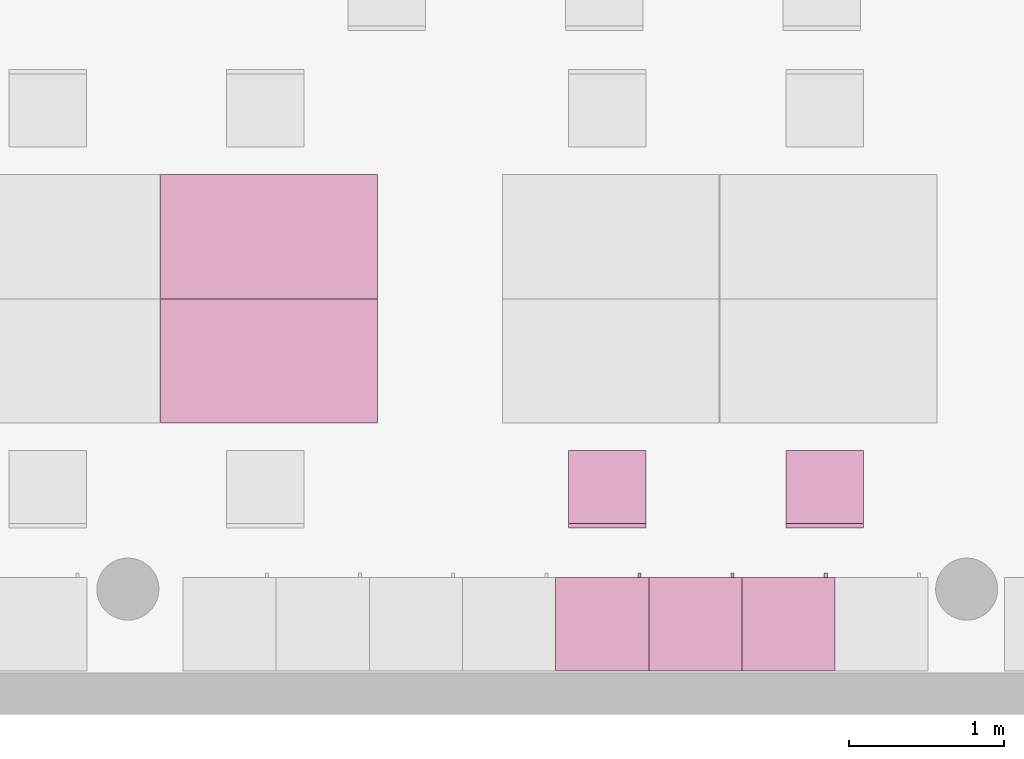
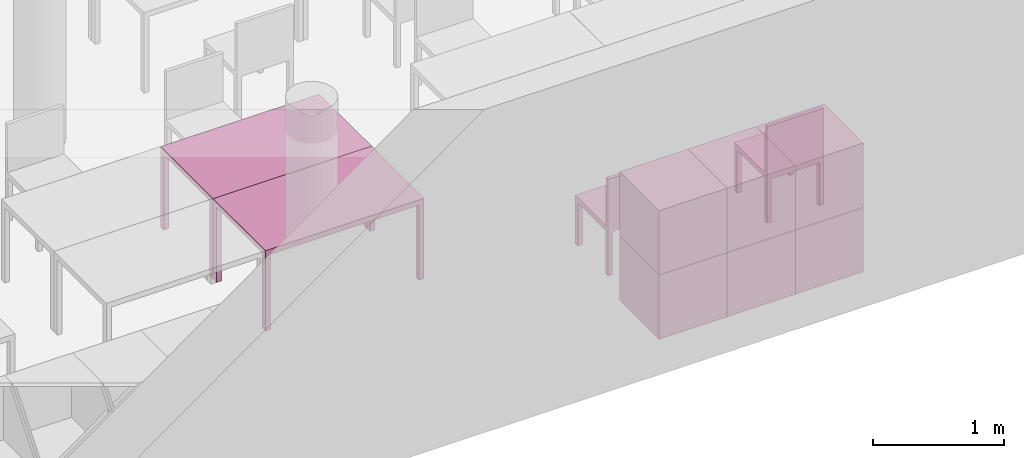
"""IFC4 building model written with IfcOpenShell, lengths in metres."""

from ifc_helpers import new_model, entity, si_unit, converted_unit, derived_unit, frame, origin, place, context, subcontext, project, spatial, faceted_brep, element, save


model = new_model("IFC4")

# Units and contexts
model_context = context("Model", 3, precision=1e-05, world=origin())
body_context = subcontext(model_context, "Body", "Model", "MODEL_VIEW")
ifc_project = project(units=[si_unit("LENGTHUNIT", "METRE"), si_unit("AREAUNIT", "SQUARE_METRE"), si_unit("VOLUMEUNIT", "CUBIC_METRE"), si_unit("MASSUNIT", "GRAM", prefix="KILO"), converted_unit("PLANEANGLEUNIT", "DEGREE", entity("IfcPlaneAngleMeasure", 0.0174532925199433), si_unit("PLANEANGLEUNIT", "RADIAN"), dimensions=[0, 0, 0, 0, 0, 0, 0]), derived_unit("THERMALTRANSMITTANCEUNIT", [(si_unit("POWERUNIT", "WATT"), 1), (si_unit("THERMODYNAMICTEMPERATUREUNIT", "KELVIN"), -1), (si_unit("LENGTHUNIT", "METRE"), -2)]), derived_unit("VOLUMETRICFLOWRATEUNIT", [(si_unit("LENGTHUNIT", "METRE"), 3), (converted_unit("TIMEUNIT", "hour", entity("IfcTimeMeasure", 3600.0), si_unit("TIMEUNIT", "SECOND"), dimensions=[0, 0, 1, 0, 0, 0, 0]), -1), (si_unit("LENGTHUNIT", "METRE"), -1)])], contexts=[model_context])

# Building, storeys
building_placement = place(None, origin())
building = spatial("IfcBuilding", under=ifc_project, at=building_placement, Name="HABITATGE PLURIFAMILIAR", CompositionType="ELEMENT")
storey_1_placement = place(building_placement, frame((0.0, 0.0, 18.29)))
storey_1 = spatial("IfcBuildingStorey", under=building, at=storey_1_placement, Name="PLANTA CINQUENA", CompositionType="ELEMENT", Elevation=18.29)
storey_2_placement = place(storey_1_placement, frame((0.0, 0.0, 15.28)))
storey_2 = spatial("IfcBuildingStorey", under=storey_1, at=storey_2_placement, Name="NOU", CompositionType="PARTIAL")

# Furniture
furniture_1_placement = place(storey_2_placement, frame((410.944373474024, 15.5193186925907, -15.28)))
element("IfcFurniture", 1, at=furniture_1_placement, inside=storey_2, Name="Taula 140X80_P5", context=body_context, shape_type="Brep", body=[
    faceted_brep([(0.04375, 0.05, 0.0), (0.0, 0.05, 0.0), (0.0, 0.0, 0.0), (0.04375, 0.0, 0.0), (0.04375, 0.0, 0.7), (0.0, 0.0, 0.7), (0.0, 0.05, 0.7), (0.04375, 0.05, 0.7)], [[[0, 1, 2, 3]], [[4, 5, 6, 7]], [[3, 4, 7, 0]], [[2, 5, 4, 3]], [[1, 6, 5, 2]], [[0, 7, 6, 1]]], orient=[[False], [False], [False], [False], [False], [False]]),
    faceted_brep([(0.04375, 0.800069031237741, 0.0), (0.0, 0.800069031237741, 0.0), (0.0, 0.750069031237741, 0.0), (0.04375, 0.750069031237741, 0.0), (0.04375, 0.750069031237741, 0.7), (0.0, 0.750069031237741, 0.7), (0.0, 0.800069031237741, 0.7), (0.04375, 0.800069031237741, 0.7)], [[[0, 1, 2, 3]], [[4, 5, 6, 7]], [[3, 4, 7, 0]], [[2, 5, 4, 3]], [[1, 6, 5, 2]], [[0, 7, 6, 1]]], orient=[[False], [False], [False], [False], [False], [False]]),
    faceted_brep([(1.39732768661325, 0.800069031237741, 0.7), (0.0, 0.800069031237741, 0.7), (0.0, 0.0, 0.7), (1.39732768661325, 0.0, 0.7), (1.39732768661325, 0.0, 0.75), (0.0, 0.0, 0.75), (0.0, 0.800069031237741, 0.75), (1.39732768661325, 0.800069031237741, 0.75)], [[[0, 1, 2, 3]], [[4, 5, 6, 7]], [[3, 4, 7, 0]], [[2, 5, 4, 3]], [[1, 6, 5, 2]], [[0, 7, 6, 1]]], orient=[[False], [False], [False], [False], [False], [False]]),
    faceted_brep([(1.39732768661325, 0.05, 0.0), (1.35357768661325, 0.05, 0.0), (1.35357768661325, 0.0, 0.0), (1.39732768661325, 0.0, 0.0), (1.39732768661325, 0.0, 0.7), (1.35357768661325, 0.0, 0.7), (1.35357768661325, 0.05, 0.7), (1.39732768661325, 0.05, 0.7)], [[[0, 1, 2, 3]], [[4, 5, 6, 7]], [[3, 4, 7, 0]], [[2, 5, 4, 3]], [[1, 6, 5, 2]], [[0, 7, 6, 1]]], orient=[[False], [False], [False], [False], [False], [False]]),
    faceted_brep([(1.39732768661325, 0.800069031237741, 0.0), (1.35357768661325, 0.800069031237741, 0.0), (1.35357768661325, 0.750069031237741, 0.0), (1.39732768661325, 0.750069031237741, 0.0), (1.39732768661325, 0.750069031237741, 0.7), (1.35357768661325, 0.750069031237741, 0.7), (1.35357768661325, 0.800069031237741, 0.7), (1.39732768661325, 0.800069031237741, 0.7)], [[[0, 1, 2, 3]], [[4, 5, 6, 7]], [[3, 4, 7, 0]], [[2, 5, 4, 3]], [[1, 6, 5, 2]], [[0, 7, 6, 1]]], orient=[[False], [False], [False], [False], [False], [False]]),
])
furniture_2_placement = place(storey_2_placement, frame((410.944373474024, 14.7192496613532, -15.28)))
element("IfcFurniture", 2, at=furniture_2_placement, inside=storey_2, Name="Taula 140X80_P5", context=body_context, shape_type="Brep", body=[
    faceted_brep([(0.04375, 0.750069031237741, 0.0), (0.04375, 0.800069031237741, 0.0), (0.0, 0.800069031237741, 0.0), (0.0, 0.750069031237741, 0.0), (0.04375, 0.800069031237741, 0.7), (0.04375, 0.750069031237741, 0.7), (0.0, 0.750069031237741, 0.7), (0.0, 0.800069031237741, 0.7)], [[[0, 1, 2, 3]], [[4, 5, 6, 7]], [[1, 0, 5, 4]], [[2, 1, 4, 7]], [[3, 2, 7, 6]], [[0, 3, 6, 5]]], orient=[[False], [False], [False], [False], [False], [False]]),
    faceted_brep([(0.04375, 0.0, 0.0), (0.04375, 0.05, 0.0), (0.0, 0.05, 0.0), (0.0, 0.0, 0.0), (0.04375, 0.05, 0.7), (0.04375, 0.0, 0.7), (0.0, 0.0, 0.7), (0.0, 0.05, 0.7)], [[[0, 1, 2, 3]], [[4, 5, 6, 7]], [[1, 0, 5, 4]], [[2, 1, 4, 7]], [[3, 2, 7, 6]], [[0, 3, 6, 5]]], orient=[[False], [False], [False], [False], [False], [False]]),
    faceted_brep([(1.39732768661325, 0.0, 0.7), (1.39732768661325, 0.800069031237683, 0.7), (0.0, 0.800069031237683, 0.7), (0.0, 0.0, 0.7), (1.39732768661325, 0.800069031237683, 0.75), (1.39732768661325, 0.0, 0.75), (0.0, 0.0, 0.75), (0.0, 0.800069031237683, 0.75)], [[[0, 1, 2, 3]], [[4, 5, 6, 7]], [[1, 0, 5, 4]], [[2, 1, 4, 7]], [[3, 2, 7, 6]], [[0, 3, 6, 5]]], orient=[[False], [False], [False], [False], [False], [False]]),
    faceted_brep([(1.39732768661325, 0.750069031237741, 0.0), (1.39732768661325, 0.800069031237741, 0.0), (1.35357768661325, 0.800069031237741, 0.0), (1.35357768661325, 0.750069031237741, 0.0), (1.39732768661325, 0.800069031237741, 0.7), (1.39732768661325, 0.750069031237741, 0.7), (1.35357768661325, 0.750069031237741, 0.7), (1.35357768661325, 0.800069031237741, 0.7)], [[[0, 1, 2, 3]], [[4, 5, 6, 7]], [[1, 0, 5, 4]], [[2, 1, 4, 7]], [[3, 2, 7, 6]], [[0, 3, 6, 5]]], orient=[[False], [False], [False], [False], [False], [False]]),
    faceted_brep([(1.39732768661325, 0.0, 0.0), (1.39732768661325, 0.05, 0.0), (1.35357768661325, 0.05, 0.0), (1.35357768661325, 0.0, 0.0), (1.39732768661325, 0.05, 0.7), (1.39732768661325, 0.0, 0.7), (1.35357768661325, 0.0, 0.7), (1.35357768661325, 0.05, 0.7)], [[[0, 1, 2, 3]], [[4, 5, 6, 7]], [[1, 0, 5, 4]], [[2, 1, 4, 7]], [[3, 2, 7, 6]], [[0, 3, 6, 5]]], orient=[[False], [False], [False], [False], [False], [False]]),
])
furniture_3_placement = place(storey_2_placement, frame((413.489266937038, 13.1230771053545, -15.2800000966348)))
element("IfcFurniture", 3, at=furniture_3_placement, inside=storey_2, Name="Armai 60x60x60_P5", context=body_context, shape_type="Brep", body=[
    faceted_brep([(0.600000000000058, 0.6, 0.02), (0.0, 0.6, 0.02), (0.0, 0.6, 0.0), (0.600000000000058, 0.6, 0.0), (0.0, 0.0, 0.02), (0.0, 0.0, 0.0), (0.600000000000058, 0.0, 0.02), (0.600000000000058, 0.0, 0.0)], [[[0, 1, 2, 3]], [[1, 4, 5, 2]], [[4, 6, 7, 5]], [[6, 0, 3, 7]], [[0, 6, 4, 1]], [[3, 2, 5, 7]]], orient=[[False], [False], [False], [False], [False], [False]]),
    faceted_brep([(0.02, 0.0, 0.58), (0.02, 0.0, 0.02), (0.02, 0.0200000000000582, 0.02), (0.02, 0.0200000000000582, 0.58), (0.58, 0.0, 0.02), (0.58, 0.0200000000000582, 0.02), (0.58, 0.0, 0.58), (0.58, 0.0200000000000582, 0.58)], [[[0, 1, 2, 3]], [[1, 4, 5, 2]], [[4, 6, 7, 5]], [[6, 0, 3, 7]], [[0, 6, 4, 1]], [[3, 2, 5, 7]]], orient=[[False], [False], [False], [False], [False], [False]]),
    faceted_brep([(0.58, 0.6, 0.58), (0.58, 0.6, 0.02), (0.6, 0.6, 0.02), (0.6, 0.6, 0.58), (0.58, 0.0, 0.02), (0.6, 0.0, 0.02), (0.58, 0.0, 0.58), (0.6, 0.0, 0.58)], [[[0, 1, 2, 3]], [[1, 4, 5, 2]], [[4, 6, 7, 5]], [[6, 0, 3, 7]], [[0, 6, 4, 1]], [[3, 2, 5, 7]]], orient=[[False], [False], [False], [False], [False], [False]]),
    faceted_brep([(0.600000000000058, 0.58, 0.58), (0.600000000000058, 0.58, 0.02), (0.600000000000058, 0.6, 0.02), (0.600000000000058, 0.6, 0.58), (0.580000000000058, 0.58, 0.02), (0.580000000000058, 0.6, 0.02), (0.580000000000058, 0.58, 0.58), (0.580000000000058, 0.6, 0.58)], [[[0, 1, 2, 3]], [[1, 4, 5, 2]], [[4, 6, 7, 5]], [[6, 0, 3, 7]], [[0, 6, 4, 1]], [[3, 2, 5, 7]]], orient=[[False], [False], [False], [False], [False], [False]]),
    faceted_brep([(0.0, 0.6, 0.58), (0.0, 0.6, 0.02), (0.0200000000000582, 0.6, 0.02), (0.0200000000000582, 0.6, 0.58), (0.0, 0.0, 0.02), (0.0200000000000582, 0.0, 0.02), (0.0, 0.0, 0.58), (0.0200000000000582, 0.0, 0.58)], [[[0, 1, 2, 3]], [[1, 4, 5, 2]], [[4, 6, 7, 5]], [[6, 0, 3, 7]], [[0, 6, 4, 1]], [[3, 2, 5, 7]]], orient=[[False], [False], [False], [False], [False], [False]]),
    faceted_brep([(0.6, 0.600000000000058, 0.6), (0.0, 0.600000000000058, 0.6), (0.0, 0.600000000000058, 0.58), (0.6, 0.600000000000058, 0.58), (0.0, 0.0, 0.6), (0.0, 0.0, 0.58), (0.6, 0.0, 0.6), (0.6, 0.0, 0.58)], [[[0, 1, 2, 3]], [[1, 4, 5, 2]], [[4, 6, 7, 5]], [[6, 0, 3, 7]], [[0, 6, 4, 1]], [[3, 2, 5, 7]]], orient=[[False], [False], [False], [False], [False], [False]]),
    faceted_brep([(0.02, 0.580000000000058, 0.58), (0.02, 0.580000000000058, 0.02), (0.02, 0.600000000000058, 0.02), (0.02, 0.600000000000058, 0.58), (0.580000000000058, 0.580000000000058, 0.02), (0.580000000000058, 0.600000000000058, 0.02), (0.580000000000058, 0.580000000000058, 0.58), (0.580000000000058, 0.600000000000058, 0.58)], [[[0, 1, 2, 3]], [[1, 4, 5, 2]], [[4, 6, 7, 5]], [[6, 0, 3, 7]], [[0, 6, 4, 1]], [[3, 2, 5, 7]]], orient=[[False], [False], [False], [False], [False], [False]]),
    faceted_brep([(0.53, 0.600000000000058, 0.358064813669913), (0.53, 0.600000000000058, 0.258064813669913), (0.53, 0.630000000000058, 0.258064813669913), (0.53, 0.630000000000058, 0.358064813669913), (0.55, 0.600000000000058, 0.258064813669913), (0.55, 0.630000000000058, 0.258064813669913), (0.55, 0.600000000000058, 0.358064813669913), (0.55, 0.630000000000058, 0.358064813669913)], [[[0, 1, 2, 3]], [[1, 4, 5, 2]], [[4, 6, 7, 5]], [[6, 0, 3, 7]], [[0, 6, 4, 1]], [[3, 2, 5, 7]]], orient=[[False], [False], [False], [False], [False], [False]]),
])
furniture_4_placement = place(storey_2_placement, frame((414.689266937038, 13.1230771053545, -15.2800000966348)))
element("IfcFurniture", 4, at=furniture_4_placement, inside=storey_2, Name="Armai 60x60x60_P5", context=body_context, shape_type="Brep", body=[
    faceted_brep([(0.600000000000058, 0.6, 0.02), (0.0, 0.6, 0.02), (0.0, 0.6, 0.0), (0.600000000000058, 0.6, 0.0), (0.0, 0.0, 0.02), (0.0, 0.0, 0.0), (0.600000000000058, 0.0, 0.02), (0.600000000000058, 0.0, 0.0)], [[[0, 1, 2, 3]], [[1, 4, 5, 2]], [[4, 6, 7, 5]], [[6, 0, 3, 7]], [[0, 6, 4, 1]], [[3, 2, 5, 7]]], orient=[[False], [False], [False], [False], [False], [False]]),
    faceted_brep([(0.02, 0.0, 0.58), (0.02, 0.0, 0.02), (0.02, 0.0200000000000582, 0.02), (0.02, 0.0200000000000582, 0.58), (0.58, 0.0, 0.02), (0.58, 0.0200000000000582, 0.02), (0.58, 0.0, 0.58), (0.58, 0.0200000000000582, 0.58)], [[[0, 1, 2, 3]], [[1, 4, 5, 2]], [[4, 6, 7, 5]], [[6, 0, 3, 7]], [[0, 6, 4, 1]], [[3, 2, 5, 7]]], orient=[[False], [False], [False], [False], [False], [False]]),
    faceted_brep([(0.58, 0.6, 0.58), (0.58, 0.6, 0.02), (0.6, 0.6, 0.02), (0.6, 0.6, 0.58), (0.58, 0.0, 0.02), (0.6, 0.0, 0.02), (0.58, 0.0, 0.58), (0.6, 0.0, 0.58)], [[[0, 1, 2, 3]], [[1, 4, 5, 2]], [[4, 6, 7, 5]], [[6, 0, 3, 7]], [[0, 6, 4, 1]], [[3, 2, 5, 7]]], orient=[[False], [False], [False], [False], [False], [False]]),
    faceted_brep([(0.600000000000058, 0.58, 0.58), (0.600000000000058, 0.58, 0.02), (0.600000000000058, 0.6, 0.02), (0.600000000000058, 0.6, 0.58), (0.580000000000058, 0.58, 0.02), (0.580000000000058, 0.6, 0.02), (0.580000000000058, 0.58, 0.58), (0.580000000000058, 0.6, 0.58)], [[[0, 1, 2, 3]], [[1, 4, 5, 2]], [[4, 6, 7, 5]], [[6, 0, 3, 7]], [[0, 6, 4, 1]], [[3, 2, 5, 7]]], orient=[[False], [False], [False], [False], [False], [False]]),
    faceted_brep([(0.0, 0.6, 0.58), (0.0, 0.6, 0.02), (0.0200000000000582, 0.6, 0.02), (0.0200000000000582, 0.6, 0.58), (0.0, 0.0, 0.02), (0.0200000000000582, 0.0, 0.02), (0.0, 0.0, 0.58), (0.0200000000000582, 0.0, 0.58)], [[[0, 1, 2, 3]], [[1, 4, 5, 2]], [[4, 6, 7, 5]], [[6, 0, 3, 7]], [[0, 6, 4, 1]], [[3, 2, 5, 7]]], orient=[[False], [False], [False], [False], [False], [False]]),
    faceted_brep([(0.6, 0.600000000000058, 0.6), (0.0, 0.600000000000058, 0.6), (0.0, 0.600000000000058, 0.58), (0.6, 0.600000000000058, 0.58), (0.0, 0.0, 0.6), (0.0, 0.0, 0.58), (0.6, 0.0, 0.6), (0.6, 0.0, 0.58)], [[[0, 1, 2, 3]], [[1, 4, 5, 2]], [[4, 6, 7, 5]], [[6, 0, 3, 7]], [[0, 6, 4, 1]], [[3, 2, 5, 7]]], orient=[[False], [False], [False], [False], [False], [False]]),
    faceted_brep([(0.02, 0.580000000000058, 0.58), (0.02, 0.580000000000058, 0.02), (0.02, 0.600000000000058, 0.02), (0.02, 0.600000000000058, 0.58), (0.580000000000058, 0.580000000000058, 0.02), (0.580000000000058, 0.600000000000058, 0.02), (0.580000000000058, 0.580000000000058, 0.58), (0.580000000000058, 0.600000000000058, 0.58)], [[[0, 1, 2, 3]], [[1, 4, 5, 2]], [[4, 6, 7, 5]], [[6, 0, 3, 7]], [[0, 6, 4, 1]], [[3, 2, 5, 7]]], orient=[[False], [False], [False], [False], [False], [False]]),
    faceted_brep([(0.53, 0.600000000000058, 0.358064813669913), (0.53, 0.600000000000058, 0.258064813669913), (0.53, 0.630000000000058, 0.258064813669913), (0.53, 0.630000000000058, 0.358064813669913), (0.55, 0.600000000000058, 0.258064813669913), (0.55, 0.630000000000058, 0.258064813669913), (0.55, 0.600000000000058, 0.358064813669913), (0.55, 0.630000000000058, 0.358064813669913)], [[[0, 1, 2, 3]], [[1, 4, 5, 2]], [[4, 6, 7, 5]], [[6, 0, 3, 7]], [[0, 6, 4, 1]], [[3, 2, 5, 7]]], orient=[[False], [False], [False], [False], [False], [False]]),
])
furniture_5_placement = place(storey_2_placement, frame((414.089266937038, 13.1230771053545, -15.2800000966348)))
element("IfcFurniture", 5, at=furniture_5_placement, inside=storey_2, Name="Armai 60x60x60_P5", context=body_context, shape_type="Brep", body=[
    faceted_brep([(0.600000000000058, 0.6, 0.02), (0.0, 0.6, 0.02), (0.0, 0.6, 0.0), (0.600000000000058, 0.6, 0.0), (0.0, 0.0, 0.02), (0.0, 0.0, 0.0), (0.600000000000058, 0.0, 0.02), (0.600000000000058, 0.0, 0.0)], [[[0, 1, 2, 3]], [[1, 4, 5, 2]], [[4, 6, 7, 5]], [[6, 0, 3, 7]], [[0, 6, 4, 1]], [[3, 2, 5, 7]]], orient=[[False], [False], [False], [False], [False], [False]]),
    faceted_brep([(0.02, 0.0, 0.58), (0.02, 0.0, 0.02), (0.02, 0.0200000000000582, 0.02), (0.02, 0.0200000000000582, 0.58), (0.58, 0.0, 0.02), (0.58, 0.0200000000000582, 0.02), (0.58, 0.0, 0.58), (0.58, 0.0200000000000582, 0.58)], [[[0, 1, 2, 3]], [[1, 4, 5, 2]], [[4, 6, 7, 5]], [[6, 0, 3, 7]], [[0, 6, 4, 1]], [[3, 2, 5, 7]]], orient=[[False], [False], [False], [False], [False], [False]]),
    faceted_brep([(0.58, 0.6, 0.58), (0.58, 0.6, 0.02), (0.6, 0.6, 0.02), (0.6, 0.6, 0.58), (0.58, 0.0, 0.02), (0.6, 0.0, 0.02), (0.58, 0.0, 0.58), (0.6, 0.0, 0.58)], [[[0, 1, 2, 3]], [[1, 4, 5, 2]], [[4, 6, 7, 5]], [[6, 0, 3, 7]], [[0, 6, 4, 1]], [[3, 2, 5, 7]]], orient=[[False], [False], [False], [False], [False], [False]]),
    faceted_brep([(0.600000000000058, 0.58, 0.58), (0.600000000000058, 0.58, 0.02), (0.600000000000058, 0.6, 0.02), (0.600000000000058, 0.6, 0.58), (0.580000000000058, 0.58, 0.02), (0.580000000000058, 0.6, 0.02), (0.580000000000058, 0.58, 0.58), (0.580000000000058, 0.6, 0.58)], [[[0, 1, 2, 3]], [[1, 4, 5, 2]], [[4, 6, 7, 5]], [[6, 0, 3, 7]], [[0, 6, 4, 1]], [[3, 2, 5, 7]]], orient=[[False], [False], [False], [False], [False], [False]]),
    faceted_brep([(0.0, 0.6, 0.58), (0.0, 0.6, 0.02), (0.0200000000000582, 0.6, 0.02), (0.0200000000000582, 0.6, 0.58), (0.0, 0.0, 0.02), (0.0200000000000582, 0.0, 0.02), (0.0, 0.0, 0.58), (0.0200000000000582, 0.0, 0.58)], [[[0, 1, 2, 3]], [[1, 4, 5, 2]], [[4, 6, 7, 5]], [[6, 0, 3, 7]], [[0, 6, 4, 1]], [[3, 2, 5, 7]]], orient=[[False], [False], [False], [False], [False], [False]]),
    faceted_brep([(0.6, 0.600000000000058, 0.6), (0.0, 0.600000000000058, 0.6), (0.0, 0.600000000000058, 0.58), (0.6, 0.600000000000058, 0.58), (0.0, 0.0, 0.6), (0.0, 0.0, 0.58), (0.6, 0.0, 0.6), (0.6, 0.0, 0.58)], [[[0, 1, 2, 3]], [[1, 4, 5, 2]], [[4, 6, 7, 5]], [[6, 0, 3, 7]], [[0, 6, 4, 1]], [[3, 2, 5, 7]]], orient=[[False], [False], [False], [False], [False], [False]]),
    faceted_brep([(0.02, 0.580000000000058, 0.58), (0.02, 0.580000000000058, 0.02), (0.02, 0.600000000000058, 0.02), (0.02, 0.600000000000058, 0.58), (0.580000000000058, 0.580000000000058, 0.02), (0.580000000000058, 0.600000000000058, 0.02), (0.580000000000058, 0.580000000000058, 0.58), (0.580000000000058, 0.600000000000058, 0.58)], [[[0, 1, 2, 3]], [[1, 4, 5, 2]], [[4, 6, 7, 5]], [[6, 0, 3, 7]], [[0, 6, 4, 1]], [[3, 2, 5, 7]]], orient=[[False], [False], [False], [False], [False], [False]]),
    faceted_brep([(0.53, 0.600000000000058, 0.358064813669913), (0.53, 0.600000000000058, 0.258064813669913), (0.53, 0.630000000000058, 0.258064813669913), (0.53, 0.630000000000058, 0.358064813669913), (0.55, 0.600000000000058, 0.258064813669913), (0.55, 0.630000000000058, 0.258064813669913), (0.55, 0.600000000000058, 0.358064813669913), (0.55, 0.630000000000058, 0.358064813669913)], [[[0, 1, 2, 3]], [[1, 4, 5, 2]], [[4, 6, 7, 5]], [[6, 0, 3, 7]], [[0, 6, 4, 1]], [[3, 2, 5, 7]]], orient=[[False], [False], [False], [False], [False], [False]]),
])
furniture_6_placement = place(storey_2_placement, frame((413.489266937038, 13.1230771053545, -14.6800000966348)))
element("IfcFurniture", 6, at=furniture_6_placement, inside=storey_2, Name="Armai 60x60x60_P5", context=body_context, shape_type="Brep", body=[
    faceted_brep([(0.600000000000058, 0.6, 0.02), (0.0, 0.6, 0.02), (0.0, 0.6, 0.0), (0.600000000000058, 0.6, 0.0), (0.0, 0.0, 0.02), (0.0, 0.0, 0.0), (0.600000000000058, 0.0, 0.02), (0.600000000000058, 0.0, 0.0)], [[[0, 1, 2, 3]], [[1, 4, 5, 2]], [[4, 6, 7, 5]], [[6, 0, 3, 7]], [[0, 6, 4, 1]], [[3, 2, 5, 7]]], orient=[[False], [False], [False], [False], [False], [False]]),
    faceted_brep([(0.02, 0.0, 0.58), (0.02, 0.0, 0.02), (0.02, 0.0200000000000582, 0.02), (0.02, 0.0200000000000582, 0.58), (0.58, 0.0, 0.02), (0.58, 0.0200000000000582, 0.02), (0.58, 0.0, 0.58), (0.58, 0.0200000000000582, 0.58)], [[[0, 1, 2, 3]], [[1, 4, 5, 2]], [[4, 6, 7, 5]], [[6, 0, 3, 7]], [[0, 6, 4, 1]], [[3, 2, 5, 7]]], orient=[[False], [False], [False], [False], [False], [False]]),
    faceted_brep([(0.58, 0.6, 0.58), (0.58, 0.6, 0.02), (0.6, 0.6, 0.02), (0.6, 0.6, 0.58), (0.58, 0.0, 0.02), (0.6, 0.0, 0.02), (0.58, 0.0, 0.58), (0.6, 0.0, 0.58)], [[[0, 1, 2, 3]], [[1, 4, 5, 2]], [[4, 6, 7, 5]], [[6, 0, 3, 7]], [[0, 6, 4, 1]], [[3, 2, 5, 7]]], orient=[[False], [False], [False], [False], [False], [False]]),
    faceted_brep([(0.600000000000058, 0.58, 0.58), (0.600000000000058, 0.58, 0.02), (0.600000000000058, 0.6, 0.02), (0.600000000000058, 0.6, 0.58), (0.580000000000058, 0.58, 0.02), (0.580000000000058, 0.6, 0.02), (0.580000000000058, 0.58, 0.58), (0.580000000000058, 0.6, 0.58)], [[[0, 1, 2, 3]], [[1, 4, 5, 2]], [[4, 6, 7, 5]], [[6, 0, 3, 7]], [[0, 6, 4, 1]], [[3, 2, 5, 7]]], orient=[[False], [False], [False], [False], [False], [False]]),
    faceted_brep([(0.0, 0.6, 0.58), (0.0, 0.6, 0.02), (0.0200000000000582, 0.6, 0.02), (0.0200000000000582, 0.6, 0.58), (0.0, 0.0, 0.02), (0.0200000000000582, 0.0, 0.02), (0.0, 0.0, 0.58), (0.0200000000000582, 0.0, 0.58)], [[[0, 1, 2, 3]], [[1, 4, 5, 2]], [[4, 6, 7, 5]], [[6, 0, 3, 7]], [[0, 6, 4, 1]], [[3, 2, 5, 7]]], orient=[[False], [False], [False], [False], [False], [False]]),
    faceted_brep([(0.6, 0.600000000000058, 0.6), (0.0, 0.600000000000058, 0.6), (0.0, 0.600000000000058, 0.58), (0.6, 0.600000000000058, 0.58), (0.0, 0.0, 0.6), (0.0, 0.0, 0.58), (0.6, 0.0, 0.6), (0.6, 0.0, 0.58)], [[[0, 1, 2, 3]], [[1, 4, 5, 2]], [[4, 6, 7, 5]], [[6, 0, 3, 7]], [[0, 6, 4, 1]], [[3, 2, 5, 7]]], orient=[[False], [False], [False], [False], [False], [False]]),
    faceted_brep([(0.02, 0.580000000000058, 0.58), (0.02, 0.580000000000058, 0.02), (0.02, 0.600000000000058, 0.02), (0.02, 0.600000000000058, 0.58), (0.580000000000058, 0.580000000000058, 0.02), (0.580000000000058, 0.600000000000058, 0.02), (0.580000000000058, 0.580000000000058, 0.58), (0.580000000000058, 0.600000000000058, 0.58)], [[[0, 1, 2, 3]], [[1, 4, 5, 2]], [[4, 6, 7, 5]], [[6, 0, 3, 7]], [[0, 6, 4, 1]], [[3, 2, 5, 7]]], orient=[[False], [False], [False], [False], [False], [False]]),
    faceted_brep([(0.53, 0.600000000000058, 0.358064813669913), (0.53, 0.600000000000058, 0.258064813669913), (0.53, 0.630000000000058, 0.258064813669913), (0.53, 0.630000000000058, 0.358064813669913), (0.55, 0.600000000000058, 0.258064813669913), (0.55, 0.630000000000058, 0.258064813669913), (0.55, 0.600000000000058, 0.358064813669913), (0.55, 0.630000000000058, 0.358064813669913)], [[[0, 1, 2, 3]], [[1, 4, 5, 2]], [[4, 6, 7, 5]], [[6, 0, 3, 7]], [[0, 6, 4, 1]], [[3, 2, 5, 7]]], orient=[[False], [False], [False], [False], [False], [False]]),
])
furniture_7_placement = place(storey_2_placement, frame((414.689266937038, 13.1230771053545, -14.6800000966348)))
element("IfcFurniture", 7, at=furniture_7_placement, inside=storey_2, Name="Armai 60x60x60_P5", context=body_context, shape_type="Brep", body=[
    faceted_brep([(0.600000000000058, 0.6, 0.02), (0.0, 0.6, 0.02), (0.0, 0.6, 0.0), (0.600000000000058, 0.6, 0.0), (0.0, 0.0, 0.02), (0.0, 0.0, 0.0), (0.600000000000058, 0.0, 0.02), (0.600000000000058, 0.0, 0.0)], [[[0, 1, 2, 3]], [[1, 4, 5, 2]], [[4, 6, 7, 5]], [[6, 0, 3, 7]], [[0, 6, 4, 1]], [[3, 2, 5, 7]]], orient=[[False], [False], [False], [False], [False], [False]]),
    faceted_brep([(0.02, 0.0, 0.58), (0.02, 0.0, 0.02), (0.02, 0.0200000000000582, 0.02), (0.02, 0.0200000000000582, 0.58), (0.58, 0.0, 0.02), (0.58, 0.0200000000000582, 0.02), (0.58, 0.0, 0.58), (0.58, 0.0200000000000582, 0.58)], [[[0, 1, 2, 3]], [[1, 4, 5, 2]], [[4, 6, 7, 5]], [[6, 0, 3, 7]], [[0, 6, 4, 1]], [[3, 2, 5, 7]]], orient=[[False], [False], [False], [False], [False], [False]]),
    faceted_brep([(0.58, 0.6, 0.58), (0.58, 0.6, 0.02), (0.6, 0.6, 0.02), (0.6, 0.6, 0.58), (0.58, 0.0, 0.02), (0.6, 0.0, 0.02), (0.58, 0.0, 0.58), (0.6, 0.0, 0.58)], [[[0, 1, 2, 3]], [[1, 4, 5, 2]], [[4, 6, 7, 5]], [[6, 0, 3, 7]], [[0, 6, 4, 1]], [[3, 2, 5, 7]]], orient=[[False], [False], [False], [False], [False], [False]]),
    faceted_brep([(0.600000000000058, 0.58, 0.58), (0.600000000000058, 0.58, 0.02), (0.600000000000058, 0.6, 0.02), (0.600000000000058, 0.6, 0.58), (0.580000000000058, 0.58, 0.02), (0.580000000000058, 0.6, 0.02), (0.580000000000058, 0.58, 0.58), (0.580000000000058, 0.6, 0.58)], [[[0, 1, 2, 3]], [[1, 4, 5, 2]], [[4, 6, 7, 5]], [[6, 0, 3, 7]], [[0, 6, 4, 1]], [[3, 2, 5, 7]]], orient=[[False], [False], [False], [False], [False], [False]]),
    faceted_brep([(0.0, 0.6, 0.58), (0.0, 0.6, 0.02), (0.0200000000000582, 0.6, 0.02), (0.0200000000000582, 0.6, 0.58), (0.0, 0.0, 0.02), (0.0200000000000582, 0.0, 0.02), (0.0, 0.0, 0.58), (0.0200000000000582, 0.0, 0.58)], [[[0, 1, 2, 3]], [[1, 4, 5, 2]], [[4, 6, 7, 5]], [[6, 0, 3, 7]], [[0, 6, 4, 1]], [[3, 2, 5, 7]]], orient=[[False], [False], [False], [False], [False], [False]]),
    faceted_brep([(0.6, 0.600000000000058, 0.6), (0.0, 0.600000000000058, 0.6), (0.0, 0.600000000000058, 0.58), (0.6, 0.600000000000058, 0.58), (0.0, 0.0, 0.6), (0.0, 0.0, 0.58), (0.6, 0.0, 0.6), (0.6, 0.0, 0.58)], [[[0, 1, 2, 3]], [[1, 4, 5, 2]], [[4, 6, 7, 5]], [[6, 0, 3, 7]], [[0, 6, 4, 1]], [[3, 2, 5, 7]]], orient=[[False], [False], [False], [False], [False], [False]]),
    faceted_brep([(0.02, 0.580000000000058, 0.58), (0.02, 0.580000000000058, 0.02), (0.02, 0.600000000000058, 0.02), (0.02, 0.600000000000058, 0.58), (0.580000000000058, 0.580000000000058, 0.02), (0.580000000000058, 0.600000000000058, 0.02), (0.580000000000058, 0.580000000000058, 0.58), (0.580000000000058, 0.600000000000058, 0.58)], [[[0, 1, 2, 3]], [[1, 4, 5, 2]], [[4, 6, 7, 5]], [[6, 0, 3, 7]], [[0, 6, 4, 1]], [[3, 2, 5, 7]]], orient=[[False], [False], [False], [False], [False], [False]]),
    faceted_brep([(0.53, 0.600000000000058, 0.358064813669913), (0.53, 0.600000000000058, 0.258064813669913), (0.53, 0.630000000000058, 0.258064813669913), (0.53, 0.630000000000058, 0.358064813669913), (0.55, 0.600000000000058, 0.258064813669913), (0.55, 0.630000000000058, 0.258064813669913), (0.55, 0.600000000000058, 0.358064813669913), (0.55, 0.630000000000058, 0.358064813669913)], [[[0, 1, 2, 3]], [[1, 4, 5, 2]], [[4, 6, 7, 5]], [[6, 0, 3, 7]], [[0, 6, 4, 1]], [[3, 2, 5, 7]]], orient=[[False], [False], [False], [False], [False], [False]]),
])
furniture_8_placement = place(storey_2_placement, frame((414.089266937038, 13.1230771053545, -14.6800000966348)))
element("IfcFurniture", 8, at=furniture_8_placement, inside=storey_2, Name="Armai 60x60x60_P5", context=body_context, shape_type="Brep", body=[
    faceted_brep([(0.600000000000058, 0.6, 0.02), (0.0, 0.6, 0.02), (0.0, 0.6, 0.0), (0.600000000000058, 0.6, 0.0), (0.0, 0.0, 0.02), (0.0, 0.0, 0.0), (0.600000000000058, 0.0, 0.02), (0.600000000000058, 0.0, 0.0)], [[[0, 1, 2, 3]], [[1, 4, 5, 2]], [[4, 6, 7, 5]], [[6, 0, 3, 7]], [[0, 6, 4, 1]], [[3, 2, 5, 7]]], orient=[[False], [False], [False], [False], [False], [False]]),
    faceted_brep([(0.02, 0.0, 0.58), (0.02, 0.0, 0.02), (0.02, 0.0200000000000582, 0.02), (0.02, 0.0200000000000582, 0.58), (0.58, 0.0, 0.02), (0.58, 0.0200000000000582, 0.02), (0.58, 0.0, 0.58), (0.58, 0.0200000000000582, 0.58)], [[[0, 1, 2, 3]], [[1, 4, 5, 2]], [[4, 6, 7, 5]], [[6, 0, 3, 7]], [[0, 6, 4, 1]], [[3, 2, 5, 7]]], orient=[[False], [False], [False], [False], [False], [False]]),
    faceted_brep([(0.58, 0.6, 0.58), (0.58, 0.6, 0.02), (0.6, 0.6, 0.02), (0.6, 0.6, 0.58), (0.58, 0.0, 0.02), (0.6, 0.0, 0.02), (0.58, 0.0, 0.58), (0.6, 0.0, 0.58)], [[[0, 1, 2, 3]], [[1, 4, 5, 2]], [[4, 6, 7, 5]], [[6, 0, 3, 7]], [[0, 6, 4, 1]], [[3, 2, 5, 7]]], orient=[[False], [False], [False], [False], [False], [False]]),
    faceted_brep([(0.600000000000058, 0.58, 0.58), (0.600000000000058, 0.58, 0.02), (0.600000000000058, 0.6, 0.02), (0.600000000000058, 0.6, 0.58), (0.580000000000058, 0.58, 0.02), (0.580000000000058, 0.6, 0.02), (0.580000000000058, 0.58, 0.58), (0.580000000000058, 0.6, 0.58)], [[[0, 1, 2, 3]], [[1, 4, 5, 2]], [[4, 6, 7, 5]], [[6, 0, 3, 7]], [[0, 6, 4, 1]], [[3, 2, 5, 7]]], orient=[[False], [False], [False], [False], [False], [False]]),
    faceted_brep([(0.0, 0.6, 0.58), (0.0, 0.6, 0.02), (0.0200000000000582, 0.6, 0.02), (0.0200000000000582, 0.6, 0.58), (0.0, 0.0, 0.02), (0.0200000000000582, 0.0, 0.02), (0.0, 0.0, 0.58), (0.0200000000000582, 0.0, 0.58)], [[[0, 1, 2, 3]], [[1, 4, 5, 2]], [[4, 6, 7, 5]], [[6, 0, 3, 7]], [[0, 6, 4, 1]], [[3, 2, 5, 7]]], orient=[[False], [False], [False], [False], [False], [False]]),
    faceted_brep([(0.6, 0.600000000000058, 0.6), (0.0, 0.600000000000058, 0.6), (0.0, 0.600000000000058, 0.58), (0.6, 0.600000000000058, 0.58), (0.0, 0.0, 0.6), (0.0, 0.0, 0.58), (0.6, 0.0, 0.6), (0.6, 0.0, 0.58)], [[[0, 1, 2, 3]], [[1, 4, 5, 2]], [[4, 6, 7, 5]], [[6, 0, 3, 7]], [[0, 6, 4, 1]], [[3, 2, 5, 7]]], orient=[[False], [False], [False], [False], [False], [False]]),
    faceted_brep([(0.02, 0.580000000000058, 0.58), (0.02, 0.580000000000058, 0.02), (0.02, 0.600000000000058, 0.02), (0.02, 0.600000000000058, 0.58), (0.580000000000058, 0.580000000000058, 0.02), (0.580000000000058, 0.600000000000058, 0.02), (0.580000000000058, 0.580000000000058, 0.58), (0.580000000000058, 0.600000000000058, 0.58)], [[[0, 1, 2, 3]], [[1, 4, 5, 2]], [[4, 6, 7, 5]], [[6, 0, 3, 7]], [[0, 6, 4, 1]], [[3, 2, 5, 7]]], orient=[[False], [False], [False], [False], [False], [False]]),
    faceted_brep([(0.53, 0.600000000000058, 0.358064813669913), (0.53, 0.600000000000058, 0.258064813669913), (0.53, 0.630000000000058, 0.258064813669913), (0.53, 0.630000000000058, 0.358064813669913), (0.55, 0.600000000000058, 0.258064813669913), (0.55, 0.630000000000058, 0.258064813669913), (0.55, 0.600000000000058, 0.358064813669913), (0.55, 0.630000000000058, 0.358064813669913)], [[[0, 1, 2, 3]], [[1, 4, 5, 2]], [[4, 6, 7, 5]], [[6, 0, 3, 7]], [[0, 6, 4, 1]], [[3, 2, 5, 7]]], orient=[[False], [False], [False], [False], [False], [False]]),
])
furniture_9_placement = place(storey_2_placement, frame((414.971761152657, 14.0425643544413, -15.2746385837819)))
element("IfcFurniture", 9, at=furniture_9_placement, inside=storey_2, Name="Cadira d'Oficina_P5", context=body_context, shape_type="Brep", body=[
    faceted_brep([(0.0, 0.500000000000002, 0.4), (0.0, 0.0, 0.4), (0.5, 0.0, 0.4), (0.5, 0.499999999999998, 0.4), (0.0, 0.0, 0.45), (0.0, 0.500000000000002, 0.45), (0.5, 0.499999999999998, 0.45), (0.5, 0.0, 0.45)], [[[0, 1, 2, 3]], [[4, 5, 6, 7]], [[1, 0, 5, 4]], [[2, 1, 4, 7]], [[3, 2, 7, 6]], [[0, 3, 6, 5]]], orient=[[False], [False], [False], [False], [False], [False]]),
    faceted_brep([(0.5, 0.04, 0.0), (0.46, 0.04, 0.0), (0.46, 0.0, 0.0), (0.5, 0.0, 0.0), (0.46, 0.04, 0.4), (0.5, 0.04, 0.4), (0.5, 0.0, 0.4), (0.46, 0.0, 0.4)], [[[0, 1, 2, 3]], [[4, 5, 6, 7]], [[1, 0, 5, 4]], [[2, 1, 4, 7]], [[3, 2, 7, 6]], [[0, 3, 6, 5]]], orient=[[False], [False], [False], [False], [False], [False]]),
    faceted_brep([(0.5, 0.499999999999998, 0.0), (0.46, 0.5, 0.0), (0.46, 0.46, 0.0), (0.5, 0.459999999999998, 0.0), (0.46, 0.5, 0.4), (0.5, 0.499999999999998, 0.4), (0.5, 0.459999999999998, 0.4), (0.46, 0.46, 0.4)], [[[0, 1, 2, 3]], [[4, 5, 6, 7]], [[1, 0, 5, 4]], [[2, 1, 4, 7]], [[3, 2, 7, 6]], [[0, 3, 6, 5]]], orient=[[False], [False], [False], [False], [False], [False]]),
    faceted_brep([(0.04, 0.04, 0.0), (0.0, 0.0400000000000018, 0.0), (0.0, 0.0, 0.0), (0.04, 0.0, 0.0), (0.0, 0.0400000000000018, 0.4), (0.04, 0.04, 0.4), (0.04, 0.0, 0.4), (0.0, 0.0, 0.4)], [[[0, 1, 2, 3]], [[4, 5, 6, 7]], [[1, 0, 5, 4]], [[2, 1, 4, 7]], [[3, 2, 7, 6]], [[0, 3, 6, 5]]], orient=[[False], [False], [False], [False], [False], [False]]),
    faceted_brep([(0.04, 0.5, 0.0), (0.0, 0.500000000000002, 0.0), (0.0, 0.460000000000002, 0.0), (0.04, 0.46, 0.0), (0.0, 0.500000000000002, 0.4), (0.04, 0.5, 0.4), (0.04, 0.46, 0.4), (0.0, 0.460000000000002, 0.4)], [[[0, 1, 2, 3]], [[4, 5, 6, 7]], [[1, 0, 5, 4]], [[2, 1, 4, 7]], [[3, 2, 7, 6]], [[0, 3, 6, 5]]], orient=[[False], [False], [False], [False], [False], [False]]),
    faceted_brep([(0.5, 0.03, 0.45), (0.0, 0.0300000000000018, 0.45), (0.0, 0.0, 0.45), (0.5, 0.0, 0.45), (0.0, 0.0300000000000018, 0.9), (0.5, 0.03, 0.9), (0.5, 0.0, 0.9), (0.0, 0.0, 0.9)], [[[0, 1, 2, 3]], [[4, 5, 6, 7]], [[1, 0, 5, 4]], [[2, 1, 4, 7]], [[3, 2, 7, 6]], [[0, 3, 6, 5]]], orient=[[False], [False], [False], [False], [False], [False]]),
])
furniture_10_placement = place(storey_2_placement, frame((413.570582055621, 14.0425643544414, -15.2746385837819)))
element("IfcFurniture", 10, at=furniture_10_placement, inside=storey_2, Name="Cadira d'Oficina_P5", context=body_context, shape_type="Brep", body=[
    faceted_brep([(0.0, 0.500000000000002, 0.4), (0.0, 0.0, 0.4), (0.5, 0.0, 0.4), (0.5, 0.499999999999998, 0.4), (0.0, 0.0, 0.45), (0.0, 0.500000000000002, 0.45), (0.5, 0.499999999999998, 0.45), (0.5, 0.0, 0.45)], [[[0, 1, 2, 3]], [[4, 5, 6, 7]], [[1, 0, 5, 4]], [[2, 1, 4, 7]], [[3, 2, 7, 6]], [[0, 3, 6, 5]]], orient=[[False], [False], [False], [False], [False], [False]]),
    faceted_brep([(0.5, 0.04, 0.0), (0.46, 0.04, 0.0), (0.46, 0.0, 0.0), (0.5, 0.0, 0.0), (0.46, 0.04, 0.4), (0.5, 0.04, 0.4), (0.5, 0.0, 0.4), (0.46, 0.0, 0.4)], [[[0, 1, 2, 3]], [[4, 5, 6, 7]], [[1, 0, 5, 4]], [[2, 1, 4, 7]], [[3, 2, 7, 6]], [[0, 3, 6, 5]]], orient=[[False], [False], [False], [False], [False], [False]]),
    faceted_brep([(0.5, 0.499999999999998, 0.0), (0.46, 0.5, 0.0), (0.46, 0.46, 0.0), (0.5, 0.459999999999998, 0.0), (0.46, 0.5, 0.4), (0.5, 0.499999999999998, 0.4), (0.5, 0.459999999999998, 0.4), (0.46, 0.46, 0.4)], [[[0, 1, 2, 3]], [[4, 5, 6, 7]], [[1, 0, 5, 4]], [[2, 1, 4, 7]], [[3, 2, 7, 6]], [[0, 3, 6, 5]]], orient=[[False], [False], [False], [False], [False], [False]]),
    faceted_brep([(0.04, 0.04, 0.0), (0.0, 0.0400000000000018, 0.0), (0.0, 0.0, 0.0), (0.04, 0.0, 0.0), (0.0, 0.0400000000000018, 0.4), (0.04, 0.04, 0.4), (0.04, 0.0, 0.4), (0.0, 0.0, 0.4)], [[[0, 1, 2, 3]], [[4, 5, 6, 7]], [[1, 0, 5, 4]], [[2, 1, 4, 7]], [[3, 2, 7, 6]], [[0, 3, 6, 5]]], orient=[[False], [False], [False], [False], [False], [False]]),
    faceted_brep([(0.04, 0.5, 0.0), (0.0, 0.500000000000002, 0.0), (0.0, 0.460000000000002, 0.0), (0.04, 0.46, 0.0), (0.0, 0.500000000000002, 0.4), (0.04, 0.5, 0.4), (0.04, 0.46, 0.4), (0.0, 0.460000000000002, 0.4)], [[[0, 1, 2, 3]], [[4, 5, 6, 7]], [[1, 0, 5, 4]], [[2, 1, 4, 7]], [[3, 2, 7, 6]], [[0, 3, 6, 5]]], orient=[[False], [False], [False], [False], [False], [False]]),
    faceted_brep([(0.5, 0.03, 0.45), (0.0, 0.0300000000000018, 0.45), (0.0, 0.0, 0.45), (0.5, 0.0, 0.45), (0.0, 0.0300000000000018, 0.9), (0.5, 0.03, 0.9), (0.5, 0.0, 0.9), (0.0, 0.0, 0.9)], [[[0, 1, 2, 3]], [[4, 5, 6, 7]], [[1, 0, 5, 4]], [[2, 1, 4, 7]], [[3, 2, 7, 6]], [[0, 3, 6, 5]]], orient=[[False], [False], [False], [False], [False], [False]]),
])

save(model, "model.ifc")
